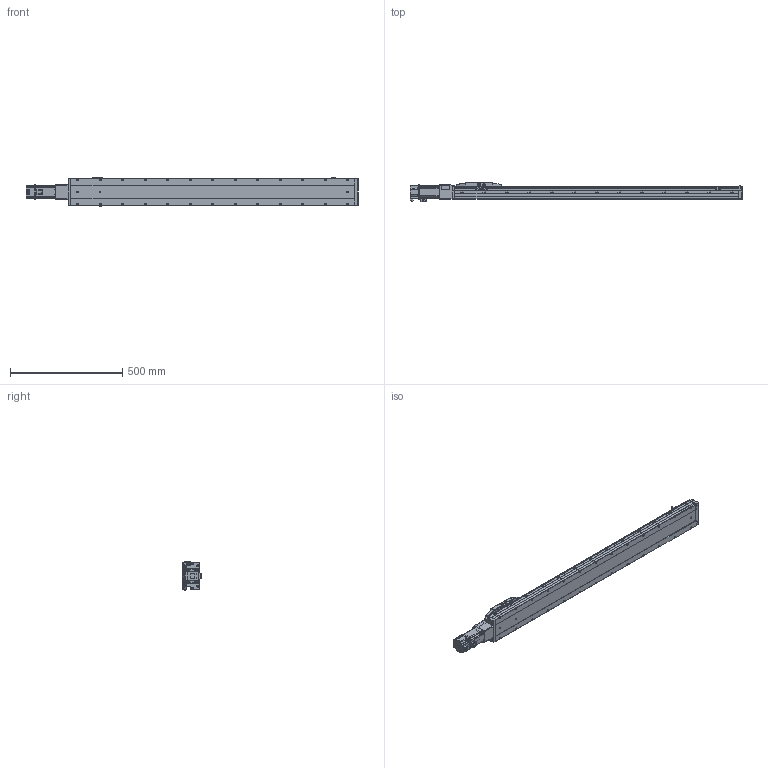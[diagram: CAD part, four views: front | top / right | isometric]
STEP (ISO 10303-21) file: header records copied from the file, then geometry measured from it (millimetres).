
FILE_DESCRIPTION (( 'STEP AP214' ), '1' );
FILE_NAME ('CTH12-L10-S1050-BC-C40（简）.STEP', '2023-02-06T05:20:09', ( '' ), ( '' ), 'SwSTEP 2.0', 'SolidWorks 2018', '' );
FILE_SCHEMA (( 'AUTOMOTIVE_DESIGN' ));
Length unit declared in the file: millimetre
Products named in the file (23): CTH12賑怢郪磁; 蚐郲; CTH12覜茼え; CTH12-L10-S1050-BC-C40（简）; CTH12-BC-03_1; 内六角圆柱头螺钉M3; M5蹟隊; hex nuts, style 1-grades ab gb_GB_FASTENER_NUT_SNAB1 M3-N; CTH12賑怢ㄗ潠ㄘ; 湮賑怢  裔赽-1(CTH12)賑怢; PM-Y45; CTH12萇儂釱; CTH12-BL_body_4; CTH12-BC-06-T40（cth8-bc-06-t40-G）_1; CTH12_body_3; 嫖萇羲壽郪磁2; 400W萇儂; 嫖萇羲壽郪磁1333; 内六角圆柱头螺钉M3-1; CTH12底座-L1261简（1050行程）; CTH12; 内六角圆柱头螺钉M3-2; CTH嫖萇羲壽假蚾啣
Assembly tree (43 placements, depth 4):
  CTH12-L10-S1050-BC-C40（简）
    CTH12底座-L1261简（1050行程）
    蚐郲  x2
    CTH12-BL_body_4
    CTH12_body_3
    CTH12賑怢郪磁
      CTH12
        湮賑怢  裔赽-1(CTH12)賑怢
        CTH12賑怢ㄗ潠ㄘ
    CTH12覜茼え
    嫖萇羲壽郪磁2
      CTH嫖萇羲壽假蚾啣
      PM-Y45
      内六角圆柱头螺钉M3-1  x2
      内六角圆柱头螺钉M3-2  x2
      hex nuts, style 1-grades ab gb_GB_FASTENER_NUT_SNAB1 M3-N  x2
    CTH12萇儂釱
      CTH12-BC-03_1
      CTH12-BC-06-T40（cth8-bc-06-t40-G）_1
    嫖萇羲壽郪磁1333  x2
      CTH嫖萇羲壽假蚾啣
      PM-Y45
      内六角圆柱头螺钉M3-2
      内六角圆柱头螺钉M3-1
      hex nuts, style 1-grades ab gb_GB_FASTENER_NUT_SNAB1 M3-N
    内六角圆柱头螺钉M3  x6
    400W萇儂
    M5蹟隊  x4
Bounding box: 1475.8 x 86.5 x 131.52 mm (x, y, z)
Volume: 8655350.1 mm3; surface area: 768470.7 mm2
Topology: 45 solids, 47 shells, 3071 faces, 7633 edges, 4787 vertices
Faces by surface type: plane 1504, cylinder 914, cone 383, bspline 142, torus 124, sphere 4
Entity records: 96088 total; most frequent: CARTESIAN_POINT 32726, ORIENTED_EDGE 12368, DIRECTION 12079, EDGE_CURVE 6184, AXIS2_PLACEMENT_3D 4245, VERTEX_POINT 3891, VECTOR 3589, LINE 3589
